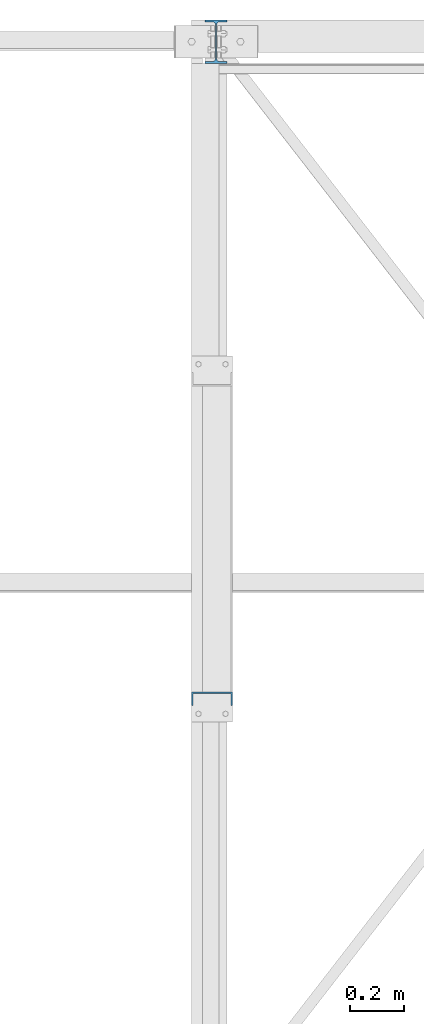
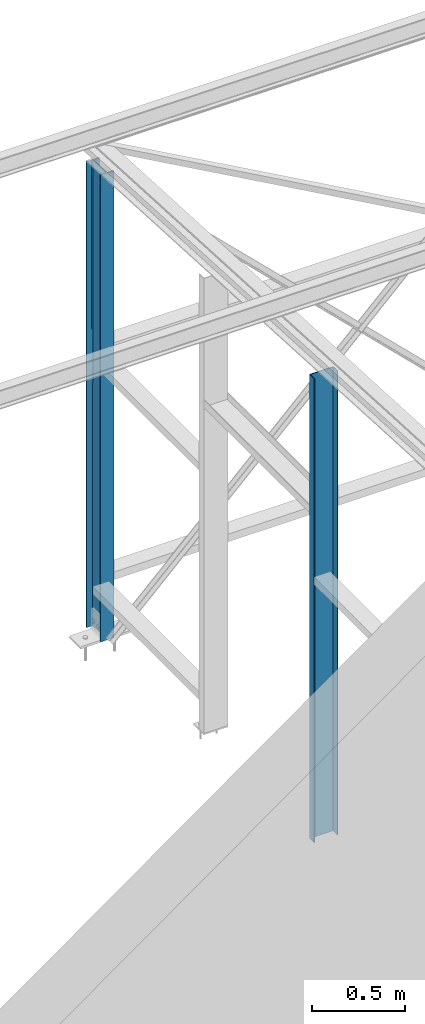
# One storey, part 10 of 123: 2 columns, 2 elements without a shape of their own.
"""IFC2X3 building model written with IfcOpenShell, lengths in millimetres."""

from ifc_helpers import new_model, si_unit, frame, origin_with_axes, origin_2d_with_axis, place, context, subcontext, project, spatial, i_section, u_section, extrude, clip, halfspace, material, type_object, element, aggregate, save


model = new_model("IFC2X3")

# Units and contexts
model_context = context("Model", 3, precision=1e-05, world=origin_with_axes())
body_context = subcontext(model_context, "Body", "Model", "MODEL_VIEW")
ifc_project = project(units=[si_unit("LENGTHUNIT", "METRE", prefix="MILLI"), si_unit("AREAUNIT", "SQUARE_METRE"), si_unit("VOLUMEUNIT", "CUBIC_METRE"), si_unit("MASSUNIT", "GRAM", prefix="KILO"), si_unit("TIMEUNIT", "SECOND"), si_unit("PLANEANGLEUNIT", "RADIAN"), si_unit("SOLIDANGLEUNIT", "STERADIAN"), si_unit("THERMODYNAMICTEMPERATUREUNIT", "DEGREE_CELSIUS"), si_unit("LUMINOUSINTENSITYUNIT", "LUMEN")], contexts=[model_context])

# Site, building, storey
site_placement = place(None, origin_with_axes())
site = spatial("IfcSite", under=ifc_project, at=site_placement, Name="Undefined", CompositionType="ELEMENT")
building_placement = place(site_placement, origin_with_axes())
building = spatial("IfcBuilding", under=site, at=building_placement, Name="Undefined", CompositionType="ELEMENT")
storey_placement = place(building_placement, origin_with_axes())
storey = spatial("IfcBuildingStorey", under=building, at=storey_placement, Name="Undefined", CompositionType="ELEMENT", Elevation=0.0)

# Assembly, column
assembly_1_placement = place(storey_placement, origin_with_axes())
assembly_1 = element("IfcElementAssembly", 1, at=assembly_1_placement, inside=storey, Name="Steel Assembly", AssemblyPlace="NOTDEFINED", PredefinedType="RIGID_FRAME")
ifc_material_1 = material(Name="STEEL/S235-E24")
column_type_1 = type_object("IfcColumnType", Name="UPF-150*50*5", PredefinedType="NOTDEFINED")
column_1_placement = place(assembly_1_placement, frame((28914.9999688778, 26815.0000217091, -90.0), z_axis=(0.0, 0.0, 1.0), x_axis=(-1.0, 0.0, 0.0)))
column_1 = element("IfcColumn", 2, at=column_1_placement, type_object=column_type_1, material=ifc_material_1, Name="MONTANT", ObjectType="UPF-150*50*5", context=body_context, shape_type="SweptSolid", body=[
    extrude(u_section(Depth=150.0, FlangeWidth=50.0, WebThickness=5.0, FlangeThickness=5.0, at=origin_2d_with_axis()), frame((0.0, 0.0, 3035.49492857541), z_axis=(0.0, 0.0, -1.0), x_axis=(0.0, 1.0, 0.0)), (0.0, 0.0, 1.0), 3035.5),
])
aggregate(assembly_1, [column_1])

assembly_2_placement = place(storey_placement, origin_with_axes())
assembly_2 = element("IfcElementAssembly", 3, at=assembly_2_placement, inside=storey, Name="Steel Assembly", AssemblyPlace="NOTDEFINED", PredefinedType="RIGID_FRAME")
ifc_material_2 = material(Name="STEEL/S275-E28")
column_type_2 = type_object("IfcColumnType", Name="IPE160", PredefinedType="NOTDEFINED")
column_2_placement = place(assembly_2_placement, frame((28929.9999688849, 29239.9999987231, -230.0), z_axis=(0.0, 0.0, 1.0), x_axis=(0.0, 1.0, 0.0)))
column_2 = element("IfcColumn", 4, at=column_2_placement, type_object=column_type_2, material=ifc_material_2, Name="POTEAU", ObjectType="IPE160", context=body_context, shape_type="Clipping", body=[
    clip(extrude(i_section(OverallWidth=82.0, OverallDepth=160.0, WebThickness=5.0, FlangeThickness=7.400000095, FilletRadius=9.0, at=origin_2d_with_axis()), frame((0.0, 0.0, 3053.99889818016), z_axis=(0.0, 0.0, -1.0), x_axis=(0.0, 1.0, 0.0)), (0.0, 0.0, 1.0), 3054.0), halfspace(frame((-43.3733177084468, -4.44753823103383e-07, 3052.03845295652), z_axis=(-0.0523092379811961, -3.66164599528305e-10, -0.998630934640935), x_axis=(0.0, -1.0, 0.0)), True)),
])
aggregate(assembly_2, [column_2])

save(model, "model.ifc")
